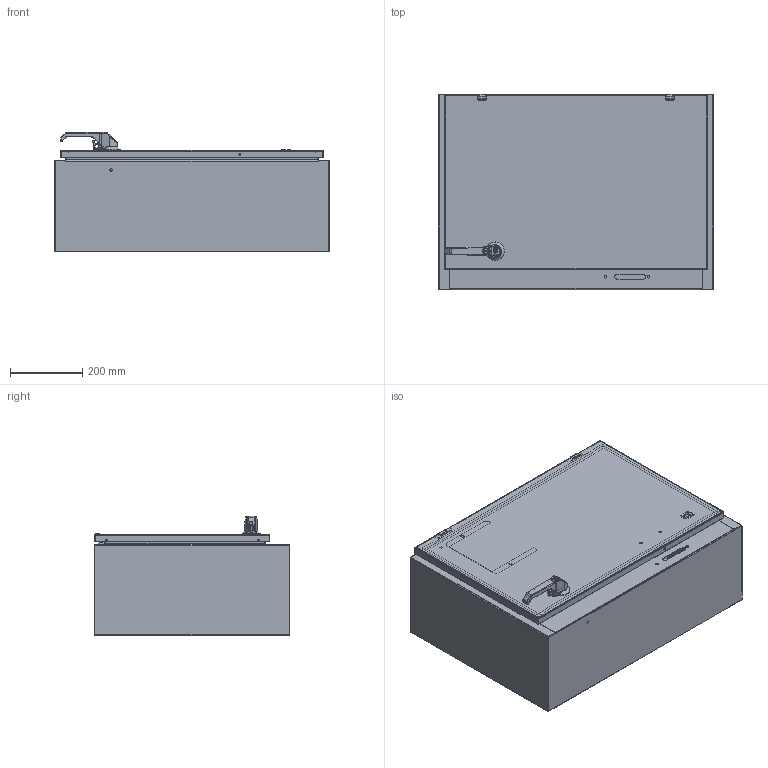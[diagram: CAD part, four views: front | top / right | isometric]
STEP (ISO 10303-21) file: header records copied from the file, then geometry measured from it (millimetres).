
FILE_DESCRIPTION((''),'2;1');
FILE_NAME('MODEL-314_ASM','2023-08-23T13:41:40',('joshi'),('SAGINAW CONTROL & ENGINEERING'),'CREO PARAMETRIC BY PTC INC, 2021284','CREO PARAMETRIC BY PTC INC, 2021284','');
FILE_SCHEMA(('AUTOMOTIVE_DESIGN { 1 0 10303 214 1 1 1 1 }'));
Length unit declared in the file: inch
Products named in the file (48): MODEL-314-BDY; MODEL-314-LS; MODEL-314-RS; MODEL-314-DR; 100837; 100882; 111541; 100953_HANDLE; 100953_HANDLE_INSERT; 100953_SHAFT_CAM; 100953_ADAPTER_CAM; 100953_NUT_CAM; 100953_BASE; 100953_O-RING; 100953_WASHER_SEALING; 100953_NUT_MOUNTING_LARGE; 100953_NUT_MOUNTING_SMALL; 100953_SCREW_SMALL; 100953_INSERT; 100953_PADLOCK_CATCH; 100953_ASM; 128142; 100030; 128142_ASM; MODEL-314-ROD-UPR; 128146; 128145; 128144; 102482; MODEL-314-ROD-UPR_ASM; 128143; 112504; MODEL-314-GSKT; 126391; 126391_ASM; 126393; 102483; 101226; 101376; 102140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
Assembly tree (74 placements, depth 4):
  MODEL-314_ASM
    MODEL-314-BDY
    MODEL-314-LS
    MODEL-314-RS
    MODEL-314-DOOR-ASSY_ASM
      MODEL-314-DR
      100837  x6
      100882  x3
      111541
      100953_ASM
        100953_HANDLE
        100953_HANDLE_INSERT
        100953_SHAFT_CAM
        100953_ADAPTER_CAM
        100953_NUT_CAM
        100953_BASE
        100953_O-RING
        100953_WASHER_SEALING
        100953_NUT_MOUNTING_LARGE
        100953_NUT_MOUNTING_SMALL
        100953_SCREW_SMALL
        100953_INSERT
        100953_PADLOCK_CATCH
      128142_ASM
        128142
        100030  x2
      MODEL-314-ROD-UPR_ASM
        MODEL-314-ROD-UPR
        128146
        128145
        128144
        102482  x2
      128143
      112504
      MODEL-314-GSKT
      126391_ASM  x2
        126391
      126393  x2
      102483  x6
      101226  x2
      101376  x2
      102140  x2
    100837  x2
    103357
    101653  x4
    122191
    SUBPANEL-SUBASSEMBLY_ASM
      SUBPANEL
      100904  x4
Bounding box: 762 x 542.92 x 331.13 mm (x, y, z)
Volume: 4581439.9 mm3; surface area: 4174333.9 mm2
Topology: 68 solids, 68 shells, 5067 faces, 12920 edges, 7999 vertices
Faces by surface type: plane 1780, cylinder 1386, bspline 854, cone 525, torus 372, sphere 150
Entity records: 198680 total; most frequent: CARTESIAN_POINT 70524, ORIENTED_EDGE 19576, DIRECTION 17915, PRESENTATION_STYLE_ASSIGNMENT 9974, STYLED_ITEM 9828, CURVE_STYLE 9788, EDGE_CURVE 9788, AXIS2_PLACEMENT_3D 6721
